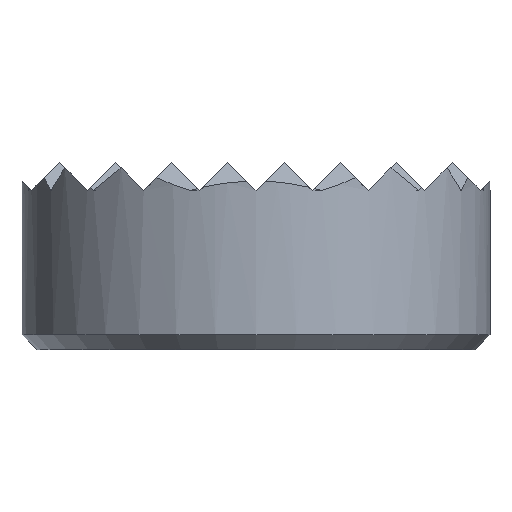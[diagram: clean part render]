
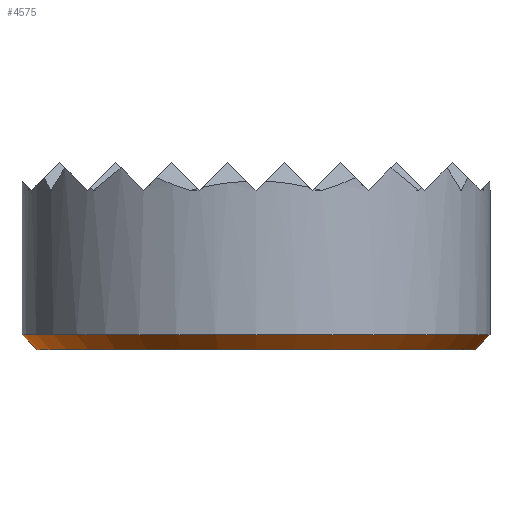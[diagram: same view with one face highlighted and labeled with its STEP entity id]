
A CAD part, front view. The second image highlights one B-rep face of the part: STEP entity #4575.
In plain terms, the highlighted conical face has half-angle 45 degrees and reference radius 12.5 mm.
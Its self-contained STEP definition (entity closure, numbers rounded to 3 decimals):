
#319 = EDGE_CURVE ( 'NONE', #954, #4639, #4780, .T. ) ;
#325 = EDGE_CURVE ( 'NONE', #2278, #5113, #2054, .T. ) ;
#349 = CARTESIAN_POINT ( 'NONE',  ( -12.5, 0., 0.8 ) ) ;
#545 = ORIENTED_EDGE ( 'NONE', *, *, #325, .F. ) ;
#769 = ORIENTED_EDGE ( 'NONE', *, *, #2882, .T. ) ;
#874 = DIRECTION ( 'NONE',  ( 0., 0., 1. ) ) ;
#895 = ORIENTED_EDGE ( 'NONE', *, *, #1020, .F. ) ;
#932 = AXIS2_PLACEMENT_3D ( 'NONE', #2266, #874, #1444 ) ;
#954 = VERTEX_POINT ( 'NONE', #2258 ) ;
#1020 = EDGE_CURVE ( 'NONE', #4639, #2278, #4267, .T. ) ;
#1069 = CARTESIAN_POINT ( 'NONE',  ( 12.5, 0., 0.8 ) ) ;
#1088 = DIRECTION ( 'NONE',  ( 0., 0., 1. ) ) ;
#1152 = DIRECTION ( 'NONE',  ( 1., 0., 0. ) ) ;
#1444 = DIRECTION ( 'NONE',  ( 1., 0., 0. ) ) ;
#1571 = CARTESIAN_POINT ( 'NONE',  ( 0., 0., 0. ) ) ;
#1922 = DIRECTION ( 'NONE',  ( -0.707, 0., 0.707 ) ) ;
#1995 = CONICAL_SURFACE ( 'NONE', #932, 12.5, 0.785 ) ;
#2054 = CIRCLE ( 'NONE', #5548, 12.5 ) ;
#2258 = CARTESIAN_POINT ( 'NONE',  ( 11.7, 0., 0. ) ) ;
#2266 = CARTESIAN_POINT ( 'NONE',  ( 0., 0., 0.8 ) ) ;
#2278 = VERTEX_POINT ( 'NONE', #349 ) ;
#2453 = ORIENTED_EDGE ( 'NONE', *, *, #319, .F. ) ;
#2882 = EDGE_CURVE ( 'NONE', #954, #5113, #4557, .T. ) ;
#2927 = CARTESIAN_POINT ( 'NONE',  ( 0., 0., 0.8 ) ) ;
#2966 = CARTESIAN_POINT ( 'NONE',  ( -12.5, 0., 0.8 ) ) ;
#2975 = CARTESIAN_POINT ( 'NONE',  ( -11.7, 0., 0. ) ) ;
#3235 = AXIS2_PLACEMENT_3D ( 'NONE', #1571, #5224, #3441 ) ;
#3441 = DIRECTION ( 'NONE',  ( 1., 0., 0. ) ) ;
#3531 = VECTOR ( 'NONE', #1922, 1000. ) ;
#3930 = VECTOR ( 'NONE', #5939, 1000. ) ;
#4100 = CARTESIAN_POINT ( 'NONE',  ( 12.5, 0., 0.8 ) ) ;
#4120 = EDGE_LOOP ( 'NONE', ( #895, #2453, #769, #545 ) ) ;
#4267 = LINE ( 'NONE', #2966, #3531 ) ;
#4557 = LINE ( 'NONE', #4100, #3930 ) ;
#4575 = ADVANCED_FACE ( 'NONE', ( #5028 ), #1995, .T. ) ;
#4639 = VERTEX_POINT ( 'NONE', #2975 ) ;
#4780 = CIRCLE ( 'NONE', #3235, 11.7 ) ;
#5028 = FACE_OUTER_BOUND ( 'NONE', #4120, .T. ) ;
#5113 = VERTEX_POINT ( 'NONE', #1069 ) ;
#5224 = DIRECTION ( 'NONE',  ( 0., 0., -1. ) ) ;
#5548 = AXIS2_PLACEMENT_3D ( 'NONE', #2927, #1088, #1152 ) ;
#5939 = DIRECTION ( 'NONE',  ( 0.707, 0., 0.707 ) ) ;
